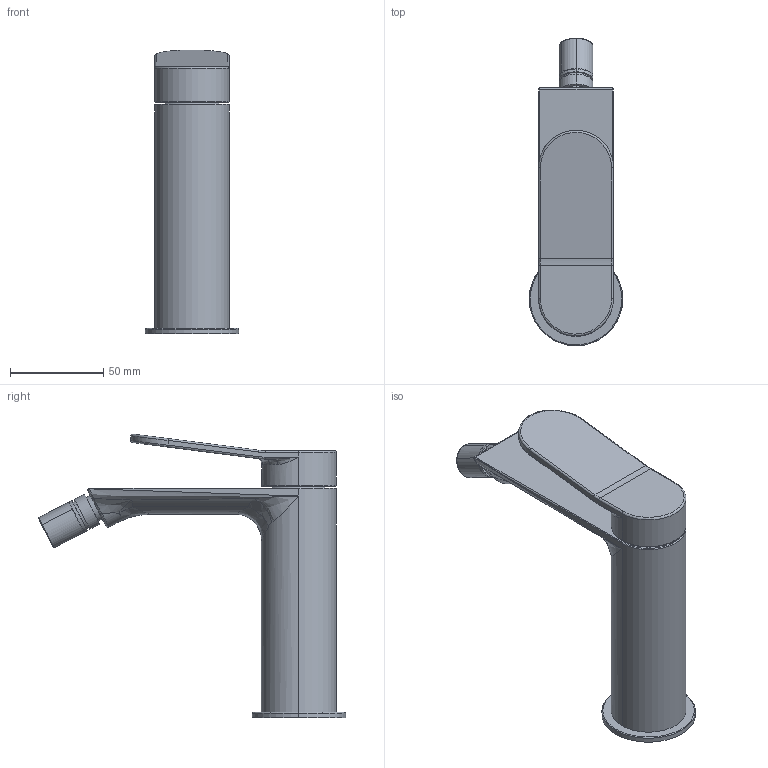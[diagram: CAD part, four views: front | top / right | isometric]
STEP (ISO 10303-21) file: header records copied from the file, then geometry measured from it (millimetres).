
FILE_DESCRIPTION (( 'STEP AP214' ), '1' );
FILE_NAME ('82401110 x architetti.STEP', '2024-11-27T16:19:41', ( '' ), ( '' ), 'SwSTEP 2.0', 'SolidWorks 2020', '' );
FILE_SCHEMA (( 'AUTOMOTIVE_DESIGN' ));
Length unit declared in the file: millimetre
Products named in the file (3): F0004210       ; 82401110; 82401110 x architetti
Assembly tree (2 placements, depth 2):
  82401110 x architetti
    82401110
    F0004210       
Bounding box: 50 x 164.34 x 151.86 mm (x, y, z)
Volume: 241567.5 mm3; surface area: 44293.6 mm2
Topology: 1 solids, 12 shells, 1877 faces, 4570 edges, 2866 vertices
Faces by surface type: bspline 954, plane 447, cylinder 404, cone 72
Full cylindrical faces by diameter (mm): 15.1 x2
Entity records: 76993 total; most frequent: CARTESIAN_POINT 42899, ORIENTED_EDGE 9097, EDGE_CURVE 4558, B_SPLINE_CURVE_WITH_KNOTS 3381, DIRECTION 3133, VERTEX_POINT 2865, EDGE_LOOP 2054, FACE_OUTER_BOUND 1875
